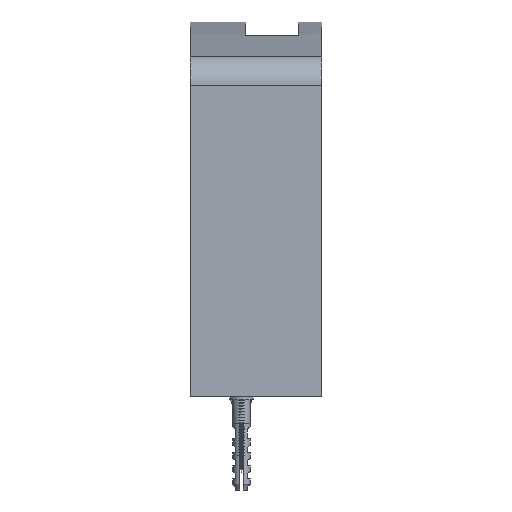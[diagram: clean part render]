
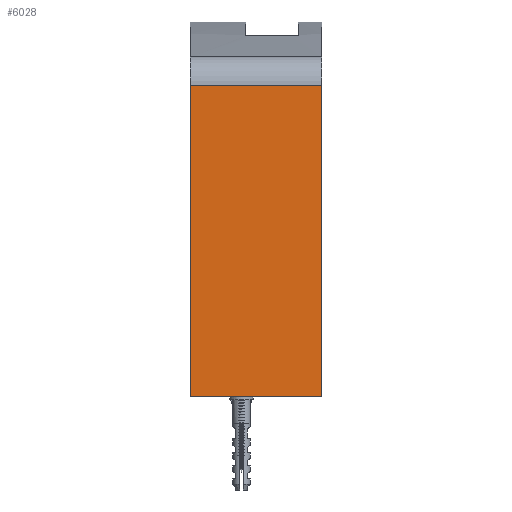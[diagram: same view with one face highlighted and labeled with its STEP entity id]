
A CAD part, left-side view. The second image highlights one B-rep face of the part: STEP entity #6028.
In plain terms, the highlighted planar face has unit normal (-1, 0, 0).
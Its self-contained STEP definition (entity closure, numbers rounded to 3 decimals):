
#393=PLANE('',#6455);
#712=LINE('',#24308,#1202);
#754=LINE('',#24501,#1244);
#755=LINE('',#24504,#1245);
#756=LINE('',#24505,#1246);
#1202=VECTOR('',#7326,106.664);
#1244=VECTOR('',#7440,45.);
#1245=VECTOR('',#7443,106.664);
#1246=VECTOR('',#7444,45.);
#1769=FACE_OUTER_BOUND('',#2133,.T.);
#2133=EDGE_LOOP('',(#4974,#4975,#4976,#4977));
#2831=VERTEX_POINT('',#24305);
#2832=VERTEX_POINT('',#24307);
#2907=VERTEX_POINT('',#24499);
#2908=VERTEX_POINT('',#24503);
#3571=EDGE_CURVE('',#2832,#2831,#712,.T.);
#3650=EDGE_CURVE('',#2907,#2831,#754,.T.);
#3651=EDGE_CURVE('',#2908,#2907,#755,.T.);
#3652=EDGE_CURVE('',#2832,#2908,#756,.T.);
#4974=ORIENTED_EDGE('',*,*,#3650,.F.);
#4975=ORIENTED_EDGE('',*,*,#3651,.F.);
#4976=ORIENTED_EDGE('',*,*,#3652,.F.);
#4977=ORIENTED_EDGE('',*,*,#3571,.T.);
#6028=ADVANCED_FACE('',(#1769),#393,.T.);
#6455=AXIS2_PLACEMENT_3D('',#24502,#7441,#7442);
#7326=DIRECTION('',(0.,0.,1.));
#7440=DIRECTION('',(0.,-1.,0.));
#7441=DIRECTION('center_axis',(-1.,0.,0.));
#7442=DIRECTION('ref_axis',(0.,0.,1.));
#7443=DIRECTION('',(0.,0.,1.));
#7444=DIRECTION('',(0.,1.,0.));
#24305=CARTESIAN_POINT('',(-150.,0.,49.164));
#24307=CARTESIAN_POINT('',(-150.,0.,-57.5));
#24308=CARTESIAN_POINT('',(-150.,0.,-57.5));
#24499=CARTESIAN_POINT('',(-150.,45.,49.164));
#24501=CARTESIAN_POINT('',(-150.,45.,49.164));
#24502=CARTESIAN_POINT('Origin',(-150.,0.,-57.5));
#24503=CARTESIAN_POINT('',(-150.,45.,-57.5));
#24504=CARTESIAN_POINT('',(-150.,45.,-57.5));
#24505=CARTESIAN_POINT('',(-150.,0.,-57.5));
